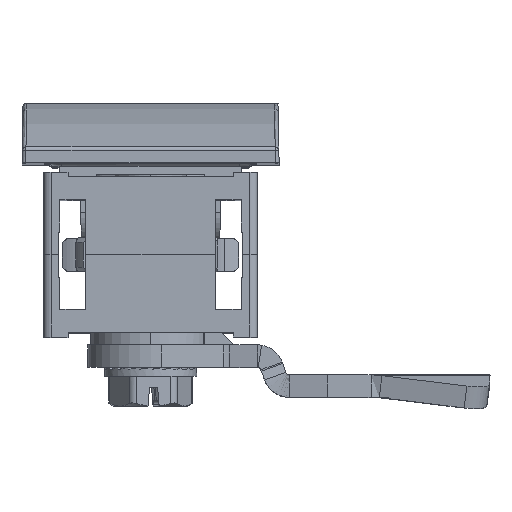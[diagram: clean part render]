
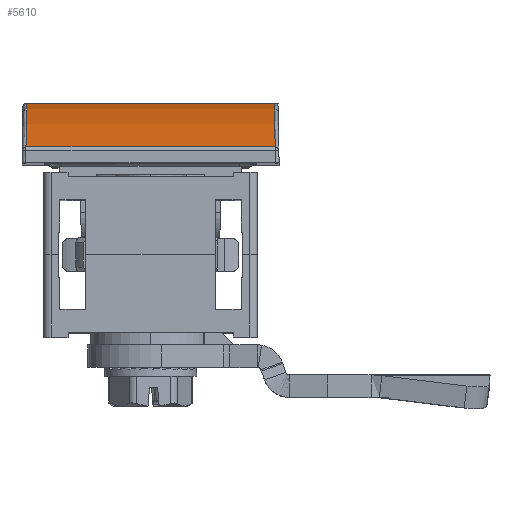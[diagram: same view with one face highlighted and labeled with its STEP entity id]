
A CAD part, top view. The second image highlights one B-rep face of the part: STEP entity #5610.
In plain terms, the highlighted cylindrical face has radius 65.001 mm (diameter 130.002 mm), a partial arc.
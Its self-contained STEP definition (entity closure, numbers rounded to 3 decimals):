
#482 = CARTESIAN_POINT ( 'NONE',  ( -17., -57.001, 147.723 ) ) ;
#1959 = DIRECTION ( 'NONE',  ( 0., 0., -1. ) ) ;
#2180 = CARTESIAN_POINT ( 'NONE',  ( -16.509, 7.986, 149.05 ) ) ;
#2834 = DIRECTION ( 'NONE',  ( 1., 0., 0. ) ) ;
#3083 = CARTESIAN_POINT ( 'NONE',  ( 16.61, 2.134, 174.708 ) ) ;
#4488 = CARTESIAN_POINT ( 'NONE',  ( -16.5, 7.987, 149.036 ) ) ;
#4716 = ORIENTED_EDGE ( 'NONE', *, *, #28307, .T. ) ;
#5554 = LINE ( 'NONE', #27658, #16991 ) ;
#5610 = ADVANCED_FACE ( 'NONE', ( #23307 ), #23197, .T. ) ;
#5823 = LINE ( 'NONE', #22760, #17282 ) ;
#5838 = CARTESIAN_POINT ( 'NONE',  ( 16.509, 7.987, 149.008 ) ) ;
#6155 = CARTESIAN_POINT ( 'NONE',  ( -16.512, 7.805, 157.943 ) ) ;
#6665 = EDGE_LOOP ( 'NONE', ( #4716, #8554, #11100, #15360, #17845, #20077 ) ) ;
#7313 =( BOUNDED_CURVE ( )  B_SPLINE_CURVE ( 3, ( #22145, #6155, #26577, #13085 ),
 .UNSPECIFIED., .F., .F. ) 
 B_SPLINE_CURVE_WITH_KNOTS ( ( 4, 4 ),
 ( 0.02, 0.428 ),
 .UNSPECIFIED. ) 
 CURVE ( )  GEOMETRIC_REPRESENTATION_ITEM ( )  RATIONAL_B_SPLINE_CURVE ( ( 1., 0.986, 0.986, 1. ) ) 
 REPRESENTATION_ITEM ( '' )  );
#8228 =( BOUNDED_CURVE ( )  B_SPLINE_CURVE ( 3, ( #19448, #12640, #19543, #5838 ),
 .UNSPECIFIED., .F., .F. ) 
 B_SPLINE_CURVE_WITH_KNOTS ( ( 4, 4 ),
 ( 2.714, 3.122 ),
 .UNSPECIFIED. ) 
 CURVE ( )  GEOMETRIC_REPRESENTATION_ITEM ( )  RATIONAL_B_SPLINE_CURVE ( ( 1., 0.986, 0.986, 1. ) ) 
 REPRESENTATION_ITEM ( '' )  );
#8554 = ORIENTED_EDGE ( 'NONE', *, *, #28501, .T. ) ;
#8823 = AXIS2_PLACEMENT_3D ( 'NONE', #482, #2834, #1959 ) ;
#8923 = VERTEX_POINT ( 'NONE', #3083 ) ;
#10162 = VECTOR ( 'NONE', #16369, 1000. ) ;
#10419 =( BOUNDED_CURVE ( )  B_SPLINE_CURVE ( 3, ( #26706, #13213, #4488, #20470 ),
 .UNSPECIFIED., .F., .F. ) 
 B_SPLINE_CURVE_WITH_KNOTS ( ( 4, 4 ),
 ( 0.02, 0.02 ),
 .UNSPECIFIED. ) 
 CURVE ( )  GEOMETRIC_REPRESENTATION_ITEM ( )  RATIONAL_B_SPLINE_CURVE ( ( 1., 1., 1., 1. ) ) 
 REPRESENTATION_ITEM ( '' )  );
#10428 = VERTEX_POINT ( 'NONE', #20044 ) ;
#10755 = VERTEX_POINT ( 'NONE', #11959 ) ;
#11100 = ORIENTED_EDGE ( 'NONE', *, *, #28718, .T. ) ;
#11870 = VERTEX_POINT ( 'NONE', #2180 ) ;
#11959 = CARTESIAN_POINT ( 'NONE',  ( -16.5, 7.986, 149.05 ) ) ;
#12640 = CARTESIAN_POINT ( 'NONE',  ( 16.546, 5.833, 166.602 ) ) ;
#13085 = CARTESIAN_POINT ( 'NONE',  ( -16.61, 2.134, 174.708 ) ) ;
#13213 = CARTESIAN_POINT ( 'NONE',  ( -16.5, 7.987, 149.022 ) ) ;
#15360 = ORIENTED_EDGE ( 'NONE', *, *, #28902, .T. ) ;
#16369 = DIRECTION ( 'NONE',  ( 1., 0., 0. ) ) ;
#16991 = VECTOR ( 'NONE', #25304, 1000. ) ;
#17060 = VERTEX_POINT ( 'NONE', #22898 ) ;
#17282 = VECTOR ( 'NONE', #24972, 1000. ) ;
#17845 = ORIENTED_EDGE ( 'NONE', *, *, #29102, .T. ) ;
#18875 = VERTEX_POINT ( 'NONE', #22045 ) ;
#19448 = CARTESIAN_POINT ( 'NONE',  ( 16.61, 2.134, 174.708 ) ) ;
#19543 = CARTESIAN_POINT ( 'NONE',  ( 16.512, 7.811, 157.915 ) ) ;
#20044 = CARTESIAN_POINT ( 'NONE',  ( -16.5, 7.987, 149.008 ) ) ;
#20077 = ORIENTED_EDGE ( 'NONE', *, *, #29504, .T. ) ;
#20470 = CARTESIAN_POINT ( 'NONE',  ( -16.5, 7.986, 149.05 ) ) ;
#22045 = CARTESIAN_POINT ( 'NONE',  ( 16.509, 7.987, 149.008 ) ) ;
#22145 = CARTESIAN_POINT ( 'NONE',  ( -16.509, 7.986, 149.05 ) ) ;
#22760 = CARTESIAN_POINT ( 'NONE',  ( -17., 7.987, 149.008 ) ) ;
#22898 = CARTESIAN_POINT ( 'NONE',  ( -16.61, 2.134, 174.708 ) ) ;
#23197 = CYLINDRICAL_SURFACE ( 'NONE', #8823, 65.001 ) ;
#23307 = FACE_OUTER_BOUND ( 'NONE', #6665, .T. ) ;
#24972 = DIRECTION ( 'NONE',  ( -1., 0., 0. ) ) ;
#25304 = DIRECTION ( 'NONE',  ( -1., 0., 0. ) ) ;
#26577 = CARTESIAN_POINT ( 'NONE',  ( -16.546, 5.827, 166.615 ) ) ;
#26706 = CARTESIAN_POINT ( 'NONE',  ( -16.5, 7.987, 149.008 ) ) ;
#27535 = CARTESIAN_POINT ( 'NONE',  ( -17., 2.134, 174.708 ) ) ;
#27658 = CARTESIAN_POINT ( 'NONE',  ( -17., 7.986, 149.05 ) ) ;
#28198 = LINE ( 'NONE', #27535, #10162 ) ;
#28307 = EDGE_CURVE ( 'NONE', #10755, #11870, #5554, .T. ) ;
#28501 = EDGE_CURVE ( 'NONE', #11870, #17060, #7313, .T. ) ;
#28718 = EDGE_CURVE ( 'NONE', #17060, #8923, #28198, .T. ) ;
#28902 = EDGE_CURVE ( 'NONE', #8923, #18875, #8228, .T. ) ;
#29102 = EDGE_CURVE ( 'NONE', #18875, #10428, #5823, .T. ) ;
#29504 = EDGE_CURVE ( 'NONE', #10428, #10755, #10419, .T. ) ;
